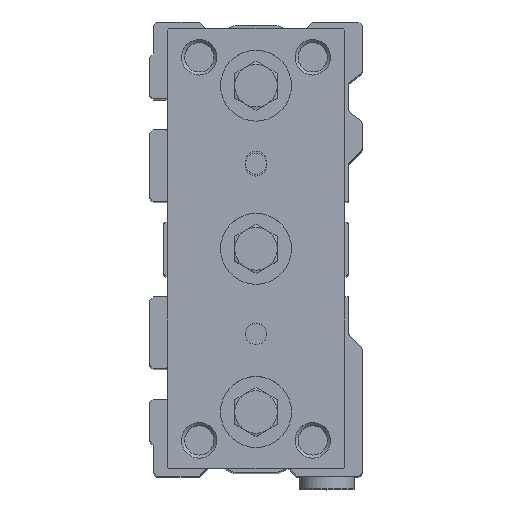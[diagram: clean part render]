
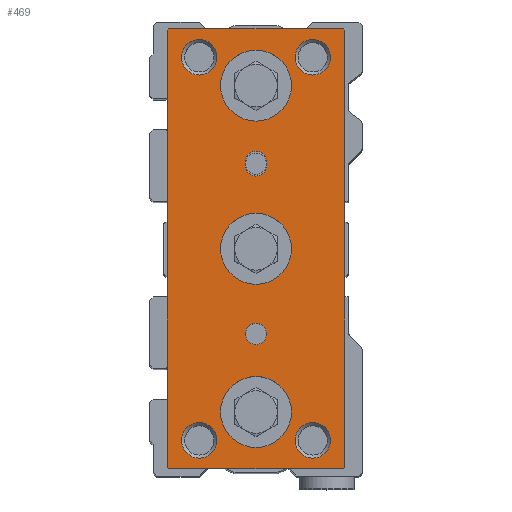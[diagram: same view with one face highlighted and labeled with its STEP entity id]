
A CAD part, top view. The second image highlights one B-rep face of the part: STEP entity #469.
In plain terms, the highlighted planar face has unit normal (0, 0, 1).
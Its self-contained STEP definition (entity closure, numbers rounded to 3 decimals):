
#469 = ADVANCED_FACE( '', ( #1235, #1236, #1237, #1238, #1239, #1240, #1241, #1242, #1243, #1244 ), #1245, .T. );
#1235 = FACE_BOUND( '', #2433, .T. );
#1236 = FACE_BOUND( '', #2434, .T. );
#1237 = FACE_BOUND( '', #2435, .T. );
#1238 = FACE_BOUND( '', #2436, .T. );
#1239 = FACE_BOUND( '', #2437, .T. );
#1240 = FACE_BOUND( '', #2438, .T. );
#1241 = FACE_BOUND( '', #2439, .T. );
#1242 = FACE_BOUND( '', #2440, .T. );
#1243 = FACE_BOUND( '', #2441, .T. );
#1244 = FACE_OUTER_BOUND( '', #2442, .T. );
#1245 = PLANE( '', #2443 );
#2433 = EDGE_LOOP( '', ( #3686, #3687, #3688, #3689 ) );
#2434 = EDGE_LOOP( '', ( #3690 ) );
#2435 = EDGE_LOOP( '', ( #3691 ) );
#2436 = EDGE_LOOP( '', ( #3692 ) );
#2437 = EDGE_LOOP( '', ( #3693 ) );
#2438 = EDGE_LOOP( '', ( #3694 ) );
#2439 = EDGE_LOOP( '', ( #3695 ) );
#2440 = EDGE_LOOP( '', ( #3696 ) );
#2441 = EDGE_LOOP( '', ( #3697 ) );
#2442 = EDGE_LOOP( '', ( #3698, #3699, #3700, #3701, #3702, #3703, #3704, #3705 ) );
#2443 = AXIS2_PLACEMENT_3D( '', #3706, #3707, #3708 );
#3686 = ORIENTED_EDGE( '', *, *, #6609, .F. );
#3687 = ORIENTED_EDGE( '', *, *, #6610, .F. );
#3688 = ORIENTED_EDGE( '', *, *, #6611, .F. );
#3689 = ORIENTED_EDGE( '', *, *, #6612, .F. );
#3690 = ORIENTED_EDGE( '', *, *, #6613, .T. );
#3691 = ORIENTED_EDGE( '', *, *, #6553, .T. );
#3692 = ORIENTED_EDGE( '', *, *, #6614, .T. );
#3693 = ORIENTED_EDGE( '', *, *, #6615, .F. );
#3694 = ORIENTED_EDGE( '', *, *, #6616, .T. );
#3695 = ORIENTED_EDGE( '', *, *, #6617, .T. );
#3696 = ORIENTED_EDGE( '', *, *, #6618, .T. );
#3697 = ORIENTED_EDGE( '', *, *, #6619, .T. );
#3698 = ORIENTED_EDGE( '', *, *, #6620, .T. );
#3699 = ORIENTED_EDGE( '', *, *, #6621, .T. );
#3700 = ORIENTED_EDGE( '', *, *, #6622, .T. );
#3701 = ORIENTED_EDGE( '', *, *, #6623, .T. );
#3702 = ORIENTED_EDGE( '', *, *, #6624, .T. );
#3703 = ORIENTED_EDGE( '', *, *, #6625, .T. );
#3704 = ORIENTED_EDGE( '', *, *, #6626, .T. );
#3705 = ORIENTED_EDGE( '', *, *, #6627, .T. );
#3706 = CARTESIAN_POINT( '', ( 0., 0., 13. ) );
#3707 = DIRECTION( '', ( 0., 0., 1. ) );
#3708 = DIRECTION( '', ( 1., 0., 0. ) );
#6553 = EDGE_CURVE( '', #7699, #7699, #7700, .T. );
#6609 = EDGE_CURVE( '', #7798, #7799, #7800, .T. );
#6610 = EDGE_CURVE( '', #7801, #7798, #7802, .T. );
#6611 = EDGE_CURVE( '', #7803, #7801, #7804, .T. );
#6612 = EDGE_CURVE( '', #7799, #7803, #7805, .T. );
#6613 = EDGE_CURVE( '', #7806, #7806, #7807, .T. );
#6614 = EDGE_CURVE( '', #7808, #7808, #7809, .T. );
#6615 = EDGE_CURVE( '', #7810, #7810, #7811, .T. );
#6616 = EDGE_CURVE( '', #7812, #7812, #7813, .T. );
#6617 = EDGE_CURVE( '', #7814, #7814, #7815, .T. );
#6618 = EDGE_CURVE( '', #7816, #7816, #7817, .T. );
#6619 = EDGE_CURVE( '', #7818, #7818, #7819, .T. );
#6620 = EDGE_CURVE( '', #7820, #7821, #7822, .T. );
#6621 = EDGE_CURVE( '', #7821, #7823, #7824, .T. );
#6622 = EDGE_CURVE( '', #7823, #7825, #7826, .T. );
#6623 = EDGE_CURVE( '', #7825, #7827, #7828, .T. );
#6624 = EDGE_CURVE( '', #7827, #7829, #7830, .T. );
#6625 = EDGE_CURVE( '', #7829, #7831, #7832, .T. );
#6626 = EDGE_CURVE( '', #7831, #7833, #7834, .T. );
#6627 = EDGE_CURVE( '', #7833, #7820, #7835, .T. );
#7699 = VERTEX_POINT( '', #9401 );
#7700 = CIRCLE( '', #9402, 5. );
#7798 = VERTEX_POINT( '', #9547 );
#7799 = VERTEX_POINT( '', #9548 );
#7800 = LINE( '', #9549, #9550 );
#7801 = VERTEX_POINT( '', #9551 );
#7802 = CIRCLE( '', #9552, 1.5 );
#7803 = VERTEX_POINT( '', #9553 );
#7804 = LINE( '', #9554, #9555 );
#7805 = CIRCLE( '', #9556, 1.5 );
#7806 = VERTEX_POINT( '', #9557 );
#7807 = CIRCLE( '', #9558, 5. );
#7808 = VERTEX_POINT( '', #9559 );
#7809 = CIRCLE( '', #9560, 5. );
#7810 = VERTEX_POINT( '', #9561 );
#7811 = CIRCLE( '', #9562, 1.5 );
#7812 = VERTEX_POINT( '', #9563 );
#7813 = CIRCLE( '', #9564, 2.5 );
#7814 = VERTEX_POINT( '', #9565 );
#7815 = CIRCLE( '', #9566, 2.5 );
#7816 = VERTEX_POINT( '', #9567 );
#7817 = CIRCLE( '', #9568, 2.5 );
#7818 = VERTEX_POINT( '', #9569 );
#7819 = CIRCLE( '', #9570, 2.5 );
#7820 = VERTEX_POINT( '', #9571 );
#7821 = VERTEX_POINT( '', #9572 );
#7822 = LINE( '', #9573, #9574 );
#7823 = VERTEX_POINT( '', #9575 );
#7824 = LINE( '', #9576, #9577 );
#7825 = VERTEX_POINT( '', #9578 );
#7826 = LINE( '', #9579, #9580 );
#7827 = VERTEX_POINT( '', #9581 );
#7828 = LINE( '', #9582, #9583 );
#7829 = VERTEX_POINT( '', #9584 );
#7830 = LINE( '', #9585, #9586 );
#7831 = VERTEX_POINT( '', #9587 );
#7832 = LINE( '', #9588, #9589 );
#7833 = VERTEX_POINT( '', #9590 );
#7834 = LINE( '', #9591, #9592 );
#7835 = LINE( '', #9593, #9594 );
#9401 = CARTESIAN_POINT( '', ( -5., -23., 13. ) );
#9402 = AXIS2_PLACEMENT_3D( '', #11744, #11745, #11746 );
#9547 = CARTESIAN_POINT( '', ( -1.5, 12.25, 13. ) );
#9548 = CARTESIAN_POINT( '', ( -1.5, 11.75, 13. ) );
#9549 = CARTESIAN_POINT( '', ( -1.5, 12.25, 13. ) );
#9550 = VECTOR( '', #11809, 1000. );
#9551 = CARTESIAN_POINT( '', ( 1.5, 12.25, 13. ) );
#9552 = AXIS2_PLACEMENT_3D( '', #11810, #11811, #11812 );
#9553 = CARTESIAN_POINT( '', ( 1.5, 11.75, 13. ) );
#9554 = CARTESIAN_POINT( '', ( 1.5, 11.75, 13. ) );
#9555 = VECTOR( '', #11813, 1000. );
#9556 = AXIS2_PLACEMENT_3D( '', #11814, #11815, #11816 );
#9557 = CARTESIAN_POINT( '', ( -5., 0., 13. ) );
#9558 = AXIS2_PLACEMENT_3D( '', #11817, #11818, #11819 );
#9559 = CARTESIAN_POINT( '', ( -5., 23., 13. ) );
#9560 = AXIS2_PLACEMENT_3D( '', #11820, #11821, #11822 );
#9561 = CARTESIAN_POINT( '', ( 1.5, -12., 13. ) );
#9562 = AXIS2_PLACEMENT_3D( '', #11823, #11824, #11825 );
#9563 = CARTESIAN_POINT( '', ( -10.5, 27., 13. ) );
#9564 = AXIS2_PLACEMENT_3D( '', #11826, #11827, #11828 );
#9565 = CARTESIAN_POINT( '', ( 5.5, -27., 13. ) );
#9566 = AXIS2_PLACEMENT_3D( '', #11829, #11830, #11831 );
#9567 = CARTESIAN_POINT( '', ( -10.5, -27., 13. ) );
#9568 = AXIS2_PLACEMENT_3D( '', #11832, #11833, #11834 );
#9569 = CARTESIAN_POINT( '', ( 5.5, 27., 13. ) );
#9570 = AXIS2_PLACEMENT_3D( '', #11835, #11836, #11837 );
#9571 = CARTESIAN_POINT( '', ( -12.3, 31., 13. ) );
#9572 = CARTESIAN_POINT( '', ( -12.5, 30.8, 13. ) );
#9573 = CARTESIAN_POINT( '', ( -12.3, 31., 13. ) );
#9574 = VECTOR( '', #11838, 1000. );
#9575 = CARTESIAN_POINT( '', ( -12.5, -30.8, 13. ) );
#9576 = CARTESIAN_POINT( '', ( -12.5, 30.8, 13. ) );
#9577 = VECTOR( '', #11839, 1000. );
#9578 = CARTESIAN_POINT( '', ( -12.3, -31., 13. ) );
#9579 = CARTESIAN_POINT( '', ( -12.5, -30.8, 13. ) );
#9580 = VECTOR( '', #11840, 1000. );
#9581 = CARTESIAN_POINT( '', ( 12.3, -31., 13. ) );
#9582 = CARTESIAN_POINT( '', ( -12.3, -31., 13. ) );
#9583 = VECTOR( '', #11841, 1000. );
#9584 = CARTESIAN_POINT( '', ( 12.5, -30.8, 13. ) );
#9585 = CARTESIAN_POINT( '', ( 12.3, -31., 13. ) );
#9586 = VECTOR( '', #11842, 1000. );
#9587 = CARTESIAN_POINT( '', ( 12.5, 30.8, 13. ) );
#9588 = CARTESIAN_POINT( '', ( 12.5, -30.8, 13. ) );
#9589 = VECTOR( '', #11843, 1000. );
#9590 = CARTESIAN_POINT( '', ( 12.3, 31., 13. ) );
#9591 = CARTESIAN_POINT( '', ( 12.5, 30.8, 13. ) );
#9592 = VECTOR( '', #11844, 1000. );
#9593 = CARTESIAN_POINT( '', ( 12.3, 31., 13. ) );
#9594 = VECTOR( '', #11845, 1000. );
#11744 = CARTESIAN_POINT( '', ( 0., -23., 13. ) );
#11745 = DIRECTION( '', ( 0., 0., -1. ) );
#11746 = DIRECTION( '', ( -1., 0., 0. ) );
#11809 = DIRECTION( '', ( 0., -1., 0. ) );
#11810 = CARTESIAN_POINT( '', ( 0., 12.25, 13. ) );
#11811 = DIRECTION( '', ( 0., 0., 1. ) );
#11812 = DIRECTION( '', ( 1., 0., 0. ) );
#11813 = DIRECTION( '', ( 0., 1., 0. ) );
#11814 = CARTESIAN_POINT( '', ( 0., 11.75, 13. ) );
#11815 = DIRECTION( '', ( 0., 0., 1. ) );
#11816 = DIRECTION( '', ( 1., 0., 0. ) );
#11817 = CARTESIAN_POINT( '', ( 0., 0., 13. ) );
#11818 = DIRECTION( '', ( 0., 0., -1. ) );
#11819 = DIRECTION( '', ( -1., 0., 0. ) );
#11820 = CARTESIAN_POINT( '', ( 0., 23., 13. ) );
#11821 = DIRECTION( '', ( 0., 0., -1. ) );
#11822 = DIRECTION( '', ( -1., 0., 0. ) );
#11823 = CARTESIAN_POINT( '', ( 0., -12., 13. ) );
#11824 = DIRECTION( '', ( 0., 0., 1. ) );
#11825 = DIRECTION( '', ( 1., 0., 0. ) );
#11826 = CARTESIAN_POINT( '', ( -8., 27., 13. ) );
#11827 = DIRECTION( '', ( 0., 0., -1. ) );
#11828 = DIRECTION( '', ( -1., 0., 0. ) );
#11829 = CARTESIAN_POINT( '', ( 8., -27., 13. ) );
#11830 = DIRECTION( '', ( 0., 0., -1. ) );
#11831 = DIRECTION( '', ( -1., 0., 0. ) );
#11832 = CARTESIAN_POINT( '', ( -8., -27., 13. ) );
#11833 = DIRECTION( '', ( 0., 0., -1. ) );
#11834 = DIRECTION( '', ( -1., 0., 0. ) );
#11835 = CARTESIAN_POINT( '', ( 8., 27., 13. ) );
#11836 = DIRECTION( '', ( 0., 0., -1. ) );
#11837 = DIRECTION( '', ( -1., 0., 0. ) );
#11838 = DIRECTION( '', ( -0.707, -0.707, 0. ) );
#11839 = DIRECTION( '', ( 0., -1., 0. ) );
#11840 = DIRECTION( '', ( 0.707, -0.707, 0. ) );
#11841 = DIRECTION( '', ( 1., 0., 0. ) );
#11842 = DIRECTION( '', ( 0.707, 0.707, 0. ) );
#11843 = DIRECTION( '', ( 0., 1., 0. ) );
#11844 = DIRECTION( '', ( -0.707, 0.707, 0. ) );
#11845 = DIRECTION( '', ( -1., 0., 0. ) );
